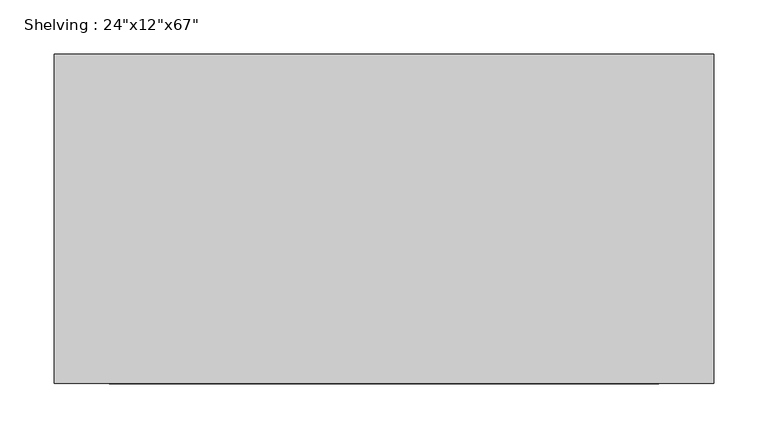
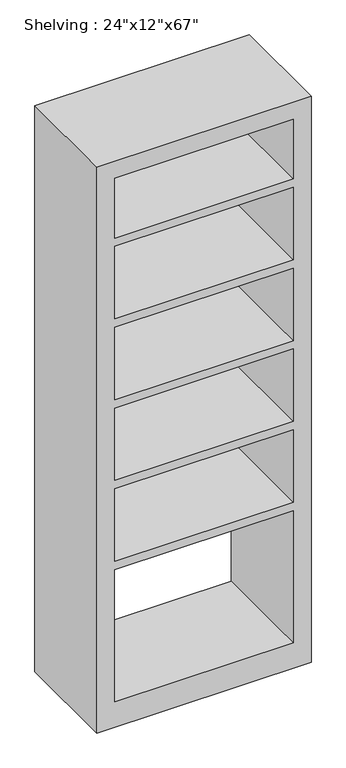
"""IFC4 building model written with IfcOpenShell, lengths in millimetres: furniture geometry."""

from ifc_helpers import new_model, si_unit, frame, origin, place, context, project, spatial, polyline, outline, extrude, source, transform, mapped, element, save


def furniture_b4575065(model_context):
    return source(origin(), model_context, "Body", "SweptSolid", [
        extrude(outline(polyline([(0.0, 304.8), (1701.8, 304.8), (1701.8, -304.8), (0.0, -304.8), (0.0, 304.8)]), holes=[polyline([(1651.0, 254.0), (1471.3857143, 254.0), (1471.3857143, -254.0), (1651.0, -254.0), (1651.0, 254.0)]), polyline([(76.2, 254.0), (76.2, -254.0), (473.5285714, -254.0), (473.5285714, 254.0), (76.2, 254.0)]), polyline([(985.1571429, -254.0), (1202.8714286, -254.0), (1202.8714286, 254.0), (985.1571429, 254.0), (985.1571429, -254.0)]), polyline([(1445.9857143, 254.0), (1228.2714286, 254.0), (1228.2714286, -254.0), (1445.9857143, -254.0), (1445.9857143, 254.0)]), polyline([(959.7571429, 254.0), (742.0428571, 254.0), (742.0428571, -254.0), (959.7571429, -254.0), (959.7571429, 254.0)]), polyline([(716.6428571, 254.0), (498.9285714, 254.0), (498.9285714, -254.0), (716.6428571, -254.0), (716.6428571, 254.0)])]), frame((0.0, -457.2, 0.0), z_axis=(0.0, 1.0, 0.0), x_axis=(0.0, 0.0, 1.0)), (0.0, 0.0, 1.0), 304.8),
    ])


if __name__ == "__main__":
    model = new_model("IFC4")
    model_context = context("Model", 3, world=origin())
    ifc_project = project(units=[si_unit("LENGTHUNIT", "METRE", prefix="MILLI")], contexts=[model_context])
    site = spatial("IfcSite", under=ifc_project)
    building = spatial("IfcBuilding", under=site)
    placement = place(None, origin())
    furniture_shape = furniture_b4575065(model_context)
    element("IfcFurniture", 1, ObjectType="Shelving : 24\"x12\"x67\"", at=placement, inside=building, context=model_context, shape_type="MappedRepresentation", body=[
        mapped(furniture_shape, transform((0.0, 0.0, 0.0), x_axis=(1.0, 0.0, 0.0), y_axis=(0.0, 1.0, 0.0), z_axis=(0.0, 0.0, 1.0))),
    ])
    save(model, "model.ifc")
